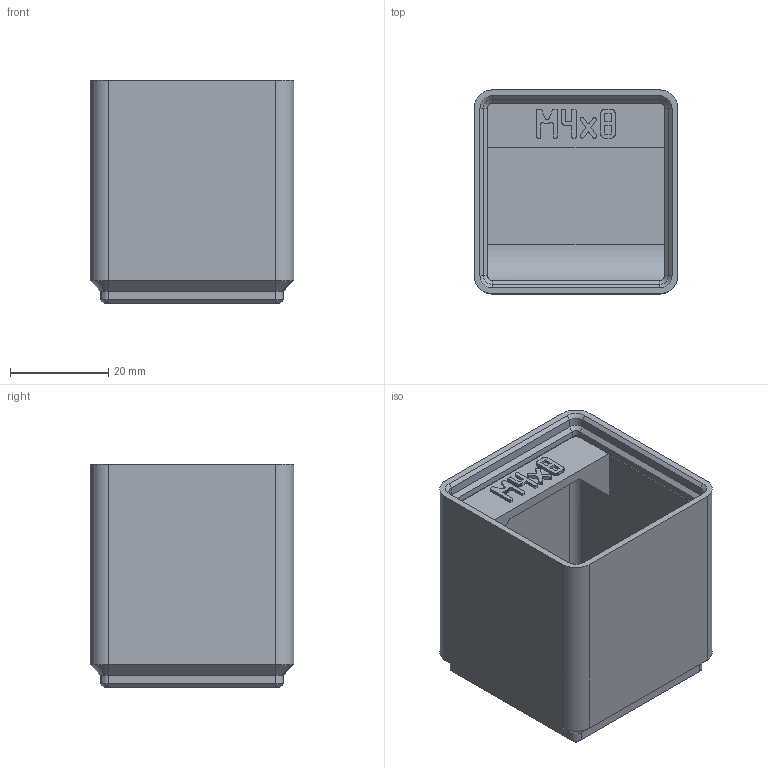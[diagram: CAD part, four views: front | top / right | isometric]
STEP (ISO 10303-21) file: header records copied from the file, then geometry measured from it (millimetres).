
FILE_DESCRIPTION(('Open CASCADE Model'),'2;1');
FILE_NAME('Open CASCADE Shape Model','2026-11-03T10:36:19',('Author'),( 'Open CASCADE'),'Open CASCADE STEP processor 8.0','build123d', 'Unknown');
FILE_SCHEMA(('AUTOMOTIVE_DESIGN { 1 0 10303 214 1 1 1 1 }'));
Length unit declared in the file: millimetre
Products named in the file (1): COMPOUND
Bounding box: 41.5 x 41.5 x 45.55 mm (x, y, z)
Volume: 24940.3 mm3; surface area: 16498.2 mm2
Topology: 1 solids, 1 shells, 471 faces, 1326 edges, 864 vertices
Faces by surface type: plane 430, cylinder 21, cone 20
Entity records: 31421 total; most frequent: CARTESIAN_POINT 6608, DIRECTION 3989, LINE 2930, VECTOR 2930, ORIENTED_EDGE 2652, PCURVE 2652, DEFINITIONAL_REPRESENTATION 2652, EDGE_CURVE 1326
